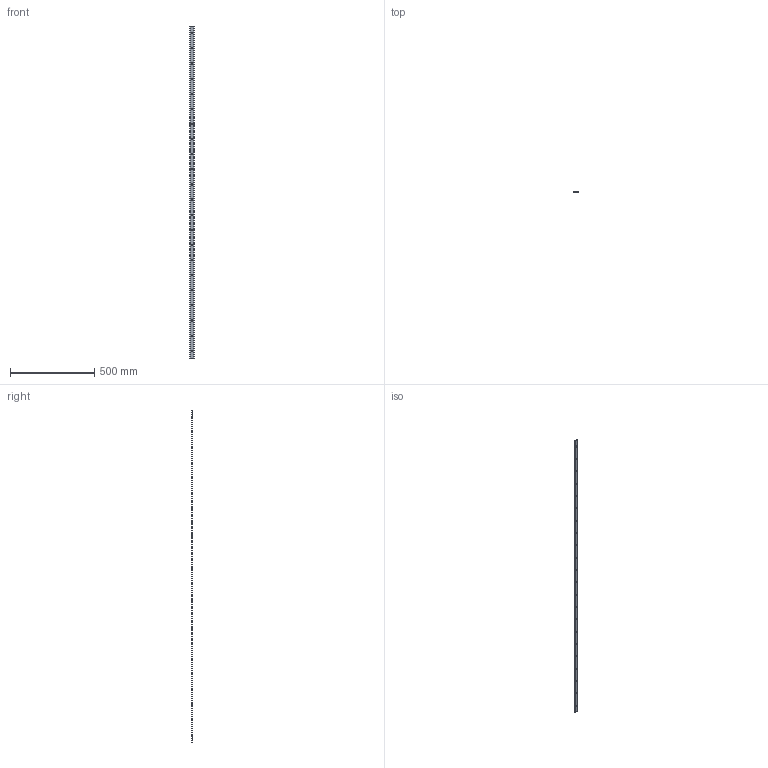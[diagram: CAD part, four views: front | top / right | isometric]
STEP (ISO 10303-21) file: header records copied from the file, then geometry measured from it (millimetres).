
FILE_DESCRIPTION(('STEP AP203'),'1');
FILE_NAME('slide_s25l1976p2.stp','2022-07-01T05:59:12',('TraceParts'),('TraceParts S.A.'),'Spatial InterOp 3D',' ',' ');
FILE_SCHEMA(('CONFIG_CONTROL_DESIGN'));
Length unit declared in the file: millimetre
Products named in the file (1): 1
Bounding box: 24.68 x 4.93 x 1976 mm (x, y, z)
Volume: 211895.6 mm3; surface area: 106242.3 mm2
Topology: 1 solids, 1 shells, 56 faces, 162 edges, 108 vertices
Faces by surface type: cylinder 48, plane 8
Entity records: 2034 total; most frequent: DIRECTION 372, CARTESIAN_POINT 327, ORIENTED_EDGE 324, EDGE_CURVE 162, AXIS2_PLACEMENT_3D 153, VERTEX_POINT 108, EDGE_LOOP 100, CIRCLE 96
